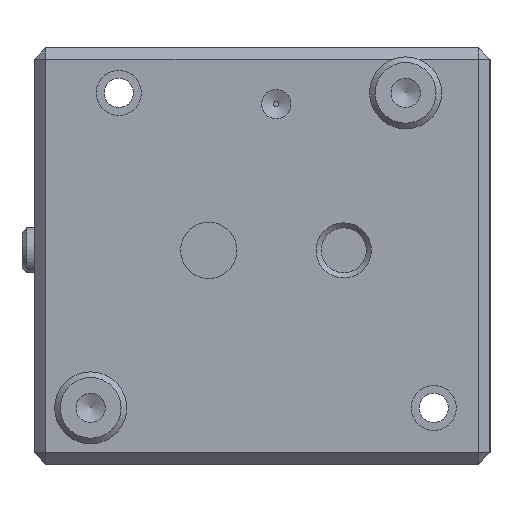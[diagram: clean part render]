
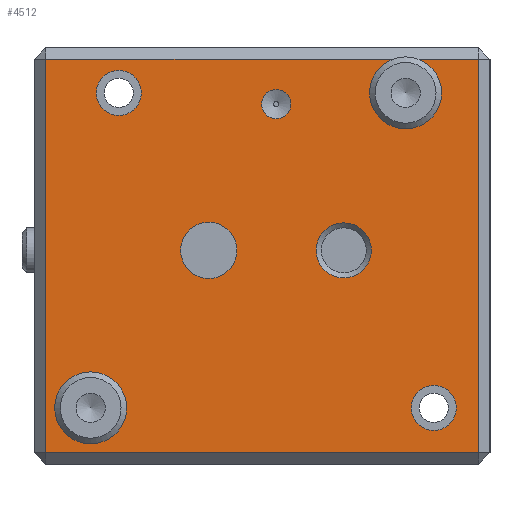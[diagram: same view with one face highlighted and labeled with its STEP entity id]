
A CAD part, left-side view. The second image highlights one B-rep face of the part: STEP entity #4512.
In plain terms, the highlighted planar face has unit normal (-1, 0, 0).
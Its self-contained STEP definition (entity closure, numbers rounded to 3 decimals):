
#1265=LINE('',#17945,#2580);
#1266=LINE('',#17948,#2581);
#1267=LINE('',#17950,#2582);
#1268=LINE('',#17952,#2583);
#1269=LINE('',#17954,#2584);
#2580=VECTOR('',#14673,1.);
#2581=VECTOR('',#14674,1.);
#2582=VECTOR('',#14675,1.);
#2583=VECTOR('',#14676,1.);
#2584=VECTOR('',#14677,1.);
#3987=PLANE('',#13673);
#4512=ADVANCED_FACE('',(#5400,#5401,#5402,#5403,#5404,#5405,#5406),#3987,
 .T.);
#5400=FACE_BOUND('',#5822,.T.);
#5401=FACE_BOUND('',#5823,.T.);
#5402=FACE_BOUND('',#5824,.T.);
#5403=FACE_BOUND('',#5825,.T.);
#5404=FACE_BOUND('',#5826,.T.);
#5405=FACE_BOUND('',#5827,.T.);
#5406=FACE_BOUND('',#5828,.T.);
#5822=EDGE_LOOP('',(#6860));
#5823=EDGE_LOOP('',(#6861));
#5824=EDGE_LOOP('',(#6862));
#5825=EDGE_LOOP('',(#6863));
#5826=EDGE_LOOP('',(#6864));
#5827=EDGE_LOOP('',(#6865,#6866,#6867,#6868,#6869,#6870));
#5828=EDGE_LOOP('',(#6871));
#6860=ORIENTED_EDGE('',*,*,#11660,.T.);
#6861=ORIENTED_EDGE('',*,*,#11661,.T.);
#6862=ORIENTED_EDGE('',*,*,#11662,.T.);
#6863=ORIENTED_EDGE('',*,*,#11663,.T.);
#6864=ORIENTED_EDGE('',*,*,#11664,.T.);
#6865=ORIENTED_EDGE('',*,*,#11665,.T.);
#6866=ORIENTED_EDGE('',*,*,#11666,.T.);
#6867=ORIENTED_EDGE('',*,*,#11667,.T.);
#6868=ORIENTED_EDGE('',*,*,#11668,.T.);
#6869=ORIENTED_EDGE('',*,*,#11669,.T.);
#6870=ORIENTED_EDGE('',*,*,#11670,.T.);
#6871=ORIENTED_EDGE('',*,*,#11671,.F.);
#10415=VERTEX_POINT('',#17936);
#10416=VERTEX_POINT('',#17938);
#10417=VERTEX_POINT('',#17940);
#10418=VERTEX_POINT('',#17942);
#10419=VERTEX_POINT('',#17944);
#10420=VERTEX_POINT('',#17946);
#10421=VERTEX_POINT('',#17947);
#10422=VERTEX_POINT('',#17949);
#10423=VERTEX_POINT('',#17951);
#10424=VERTEX_POINT('',#17953);
#10425=VERTEX_POINT('',#17957);
#11660=EDGE_CURVE('',#10415,#10415,#13413,.T.);
#11661=EDGE_CURVE('',#10416,#10416,#13414,.T.);
#11662=EDGE_CURVE('',#10417,#10417,#13415,.T.);
#11663=EDGE_CURVE('',#10418,#10418,#13416,.T.);
#11664=EDGE_CURVE('',#10419,#10419,#13417,.T.);
#11665=EDGE_CURVE('',#10420,#10421,#1265,.T.);
#11666=EDGE_CURVE('',#10421,#10422,#1266,.T.);
#11667=EDGE_CURVE('',#10422,#10423,#1267,.T.);
#11668=EDGE_CURVE('',#10423,#10424,#1268,.T.);
#11669=EDGE_CURVE('',#10424,#10420,#1269,.T.);
#11670=EDGE_CURVE('',#10420,#10420,#13418,.T.);
#11671=EDGE_CURVE('',#10425,#10425,#13419,.T.);
#13413=CIRCLE('',#13666,1.3);
#13414=CIRCLE('',#13667,3.);
#13415=CIRCLE('',#13668,2.);
#13416=CIRCLE('',#13669,2.);
#13417=CIRCLE('',#13670,2.5);
#13418=CIRCLE('',#13671,3.);
#13419=CIRCLE('',#13672,2.45);
#13666=AXIS2_PLACEMENT_3D('',#17935,#14663,#14664);
#13667=AXIS2_PLACEMENT_3D('',#17937,#14665,#14666);
#13668=AXIS2_PLACEMENT_3D('',#17939,#14667,#14668);
#13669=AXIS2_PLACEMENT_3D('',#17941,#14669,#14670);
#13670=AXIS2_PLACEMENT_3D('',#17943,#14671,#14672);
#13671=AXIS2_PLACEMENT_3D('',#17955,#14678,#14679);
#13672=AXIS2_PLACEMENT_3D('',#17956,#14680,#14681);
#13673=AXIS2_PLACEMENT_3D('',#17958,#14682,#14683);
#14663=DIRECTION('',(1.,0.,0.));
#14664=DIRECTION('',(0.,1.,0.));
#14665=DIRECTION('',(1.,0.,0.));
#14666=DIRECTION('',(0.,1.,0.));
#14667=DIRECTION('',(1.,0.,0.));
#14668=DIRECTION('',(0.,1.,0.));
#14669=DIRECTION('',(1.,0.,0.));
#14670=DIRECTION('',(0.,1.,0.));
#14671=DIRECTION('',(1.,0.,0.));
#14672=DIRECTION('',(0.,1.,0.));
#14673=DIRECTION('',(0.,1.,0.));
#14674=DIRECTION('',(0.,0.,-1.));
#14675=DIRECTION('',(0.,-1.,0.));
#14676=DIRECTION('',(0.,0.,1.));
#14677=DIRECTION('',(0.,1.,0.));
#14678=DIRECTION('',(1.,0.,0.));
#14679=DIRECTION('',(0.,1.,0.));
#14680=DIRECTION('',(-1.,0.,0.));
#14681=DIRECTION('',(0.,1.,0.));
#14682=DIRECTION('',(-1.,0.,0.));
#14683=DIRECTION('',(0.,-1.,0.));
#17935=CARTESIAN_POINT('',(32.875,95.101,-3.666));
#17936=CARTESIAN_POINT('',(32.875,96.401,-3.666));
#17937=CARTESIAN_POINT('',(32.875,111.601,-30.666));
#17938=CARTESIAN_POINT('',(32.875,114.601,-30.666));
#17939=CARTESIAN_POINT('',(32.875,81.101,-30.666));
#17940=CARTESIAN_POINT('',(32.875,83.101,-30.666));
#17941=CARTESIAN_POINT('',(32.875,109.101,-2.666));
#17942=CARTESIAN_POINT('',(32.875,111.101,-2.666));
#17943=CARTESIAN_POINT('',(32.875,101.101,-16.666));
#17944=CARTESIAN_POINT('',(32.875,103.601,-16.666));
#17945=CARTESIAN_POINT('',(32.875,116.601,0.334));
#17946=CARTESIAN_POINT('',(32.875,83.601,0.334));
#17947=CARTESIAN_POINT('',(32.875,115.601,0.334));
#17948=CARTESIAN_POINT('',(32.875,115.601,-17.166));
#17949=CARTESIAN_POINT('',(32.875,115.601,-34.666));
#17950=CARTESIAN_POINT('',(32.875,116.601,-34.666));
#17951=CARTESIAN_POINT('',(32.875,77.101,-34.666));
#17952=CARTESIAN_POINT('',(32.875,77.101,-17.166));
#17953=CARTESIAN_POINT('',(32.875,77.101,0.334));
#17954=CARTESIAN_POINT('',(32.875,116.601,0.334));
#17955=CARTESIAN_POINT('',(32.875,83.601,-2.666));
#17956=CARTESIAN_POINT('',(32.875,89.101,-16.666));
#17957=CARTESIAN_POINT('',(32.875,91.551,-16.666));
#17958=CARTESIAN_POINT('',(32.875,116.601,-17.166));
